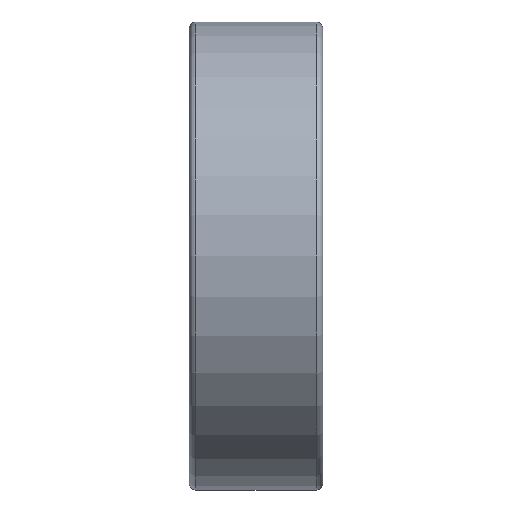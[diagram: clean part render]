
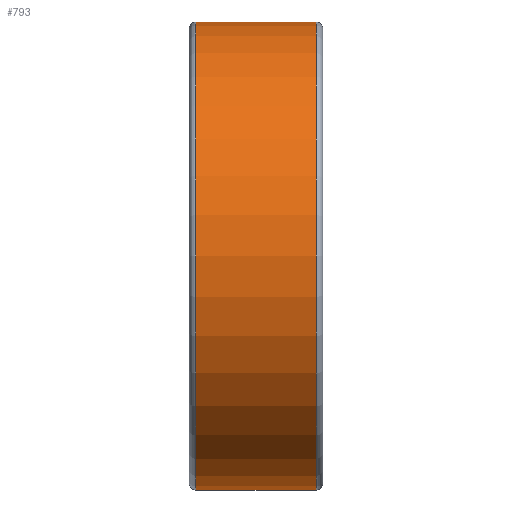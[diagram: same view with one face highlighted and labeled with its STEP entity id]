
A CAD part, front view. The second image highlights one B-rep face of the part: STEP entity #793.
In plain terms, the highlighted cylindrical face has radius 21 mm (diameter 42 mm), a full revolution.
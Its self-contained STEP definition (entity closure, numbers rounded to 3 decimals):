
#44=LINE('',#1526,#50);
#50=VECTOR('',#1245,21.);
#56=CYLINDRICAL_SURFACE('',#962,21.);
#132=FACE_OUTER_BOUND('',#195,.T.);
#195=EDGE_LOOP('',(#708,#709,#710,#711,#712,#713));
#296=CIRCLE('',#957,21.);
#297=CIRCLE('',#958,21.);
#300=CIRCLE('',#963,21.);
#301=CIRCLE('',#964,21.);
#415=VERTEX_POINT('',#1514);
#416=VERTEX_POINT('',#1515);
#418=VERTEX_POINT('',#1523);
#419=VERTEX_POINT('',#1524);
#516=EDGE_CURVE('',#415,#416,#296,.T.);
#517=EDGE_CURVE('',#416,#415,#297,.T.);
#520=EDGE_CURVE('',#418,#419,#300,.T.);
#521=EDGE_CURVE('',#418,#416,#44,.T.);
#522=EDGE_CURVE('',#419,#418,#301,.T.);
#708=ORIENTED_EDGE('',*,*,#520,.F.);
#709=ORIENTED_EDGE('',*,*,#521,.T.);
#710=ORIENTED_EDGE('',*,*,#516,.F.);
#711=ORIENTED_EDGE('',*,*,#517,.F.);
#712=ORIENTED_EDGE('',*,*,#521,.F.);
#713=ORIENTED_EDGE('',*,*,#522,.F.);
#793=ADVANCED_FACE('',(#132),#56,.T.);
#957=AXIS2_PLACEMENT_3D('',#1516,#1231,#1232);
#958=AXIS2_PLACEMENT_3D('',#1517,#1233,#1234);
#962=AXIS2_PLACEMENT_3D('',#1522,#1241,#1242);
#963=AXIS2_PLACEMENT_3D('',#1525,#1243,#1244);
#964=AXIS2_PLACEMENT_3D('',#1527,#1246,#1247);
#1231=DIRECTION('center_axis',(-1.,0.,0.));
#1232=DIRECTION('ref_axis',(0.,-1.,0.));
#1233=DIRECTION('center_axis',(-1.,0.,0.));
#1234=DIRECTION('ref_axis',(0.,-1.,0.));
#1241=DIRECTION('center_axis',(1.,0.,0.));
#1242=DIRECTION('ref_axis',(0.,1.,0.));
#1243=DIRECTION('center_axis',(1.,0.,0.));
#1244=DIRECTION('ref_axis',(0.,-1.,0.));
#1245=DIRECTION('',(-1.,0.,0.));
#1246=DIRECTION('center_axis',(1.,0.,0.));
#1247=DIRECTION('ref_axis',(0.,-1.,0.));
#1514=CARTESIAN_POINT('',(0.6,0.,21.));
#1515=CARTESIAN_POINT('',(0.6,-21.,0.));
#1516=CARTESIAN_POINT('Origin',(0.6,0.,0.));
#1517=CARTESIAN_POINT('Origin',(0.6,0.,0.));
#1522=CARTESIAN_POINT('Origin',(6.,0.,0.));
#1523=CARTESIAN_POINT('',(11.4,-21.,0.));
#1524=CARTESIAN_POINT('',(11.4,0.,21.));
#1525=CARTESIAN_POINT('Origin',(11.4,0.,0.));
#1526=CARTESIAN_POINT('',(6.,-21.,0.));
#1527=CARTESIAN_POINT('Origin',(11.4,0.,0.));
